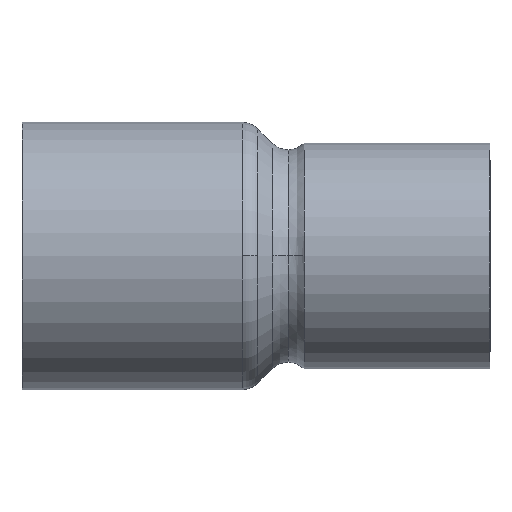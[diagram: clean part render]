
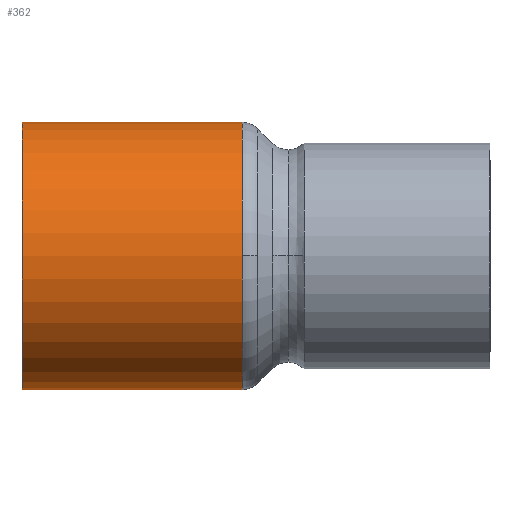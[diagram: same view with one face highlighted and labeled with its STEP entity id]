
A CAD part, top view. The second image highlights one B-rep face of the part: STEP entity #362.
In plain terms, the highlighted cylindrical face has radius 6 mm (diameter 12 mm), a partial arc.
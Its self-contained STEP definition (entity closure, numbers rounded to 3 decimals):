
#312=CARTESIAN_POINT('',(4.937,0.0,0.0));
#313=DIRECTION('',(1.0,0.0,0.0));
#314=DIRECTION('',(0.0,1.0,0.0));
#315=AXIS2_PLACEMENT_3D('',#312,#313,#314);
#316=CYLINDRICAL_SURFACE('',#315,6.);
#317=CARTESIAN_POINT('',(0.,6.,0.0));
#318=VERTEX_POINT('',#317);
#319=CARTESIAN_POINT('',(9.873,6.,0.0));
#320=VERTEX_POINT('',#319);
#321=CARTESIAN_POINT('',(0.,6.,0.0));
#322=DIRECTION('',(1.0,0.0,0.0));
#323=VECTOR('',#322,9.873);
#324=LINE('',#321,#323);
#325=EDGE_CURVE('',#318,#320,#324,.T.);
#326=ORIENTED_EDGE('',*,*,#325,.F.);
#327=CARTESIAN_POINT('',(0.,-6.,0.));
#328=VERTEX_POINT('',#327);
#329=CARTESIAN_POINT('',(0.,0.0,0.0));
#330=DIRECTION('',(1.0,0.0,0.0));
#331=DIRECTION('',(0.0,1.0,0.0));
#332=AXIS2_PLACEMENT_3D('',#329,#330,#331);
#333=CIRCLE('',#332,6.);
#334=EDGE_CURVE('',#318,#328,#333,.T.);
#335=ORIENTED_EDGE('',*,*,#334,.T.);
#336=CARTESIAN_POINT('',(9.873,-6.,0.));
#337=VERTEX_POINT('',#336);
#338=CARTESIAN_POINT('',(9.873,-6.,0.));
#339=DIRECTION('',(-1.0,0.0,0.0));
#340=VECTOR('',#339,9.873);
#341=LINE('',#338,#340);
#342=EDGE_CURVE('',#337,#328,#341,.T.);
#343=ORIENTED_EDGE('',*,*,#342,.F.);
#344=CARTESIAN_POINT('',(9.873,0.,6.));
#345=VERTEX_POINT('',#344);
#346=CARTESIAN_POINT('',(9.873,0.0,0.0));
#347=DIRECTION('',(1.0,0.0,0.0));
#348=DIRECTION('',(0.0,1.0,0.0));
#349=AXIS2_PLACEMENT_3D('',#346,#347,#348);
#350=CIRCLE('',#349,6.);
#351=EDGE_CURVE('',#345,#337,#350,.T.);
#352=ORIENTED_EDGE('',*,*,#351,.F.);
#353=CARTESIAN_POINT('',(9.873,0.0,0.0));
#354=DIRECTION('',(1.0,0.0,0.0));
#355=DIRECTION('',(0.0,1.0,0.0));
#356=AXIS2_PLACEMENT_3D('',#353,#354,#355);
#357=CIRCLE('',#356,6.);
#358=EDGE_CURVE('',#320,#345,#357,.T.);
#359=ORIENTED_EDGE('',*,*,#358,.F.);
#360=EDGE_LOOP('',(#326,#335,#343,#352,#359));
#361=FACE_OUTER_BOUND('',#360,.T.);
#362=ADVANCED_FACE('',(#361),#316,.T.);
